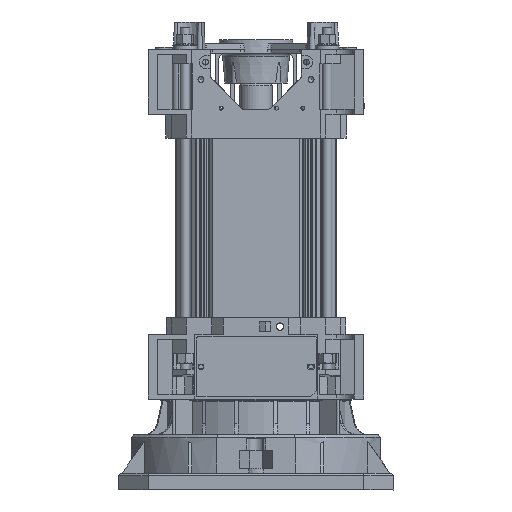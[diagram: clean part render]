
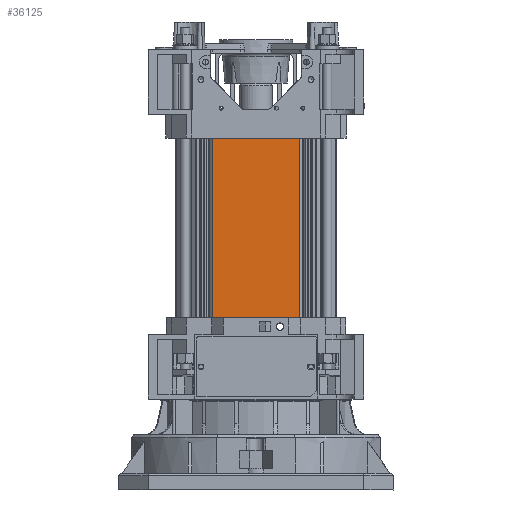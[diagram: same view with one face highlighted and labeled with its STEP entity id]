
A CAD part, left-side view. The second image highlights one B-rep face of the part: STEP entity #36125.
In plain terms, the highlighted planar face has unit normal (-1, 0, 0).
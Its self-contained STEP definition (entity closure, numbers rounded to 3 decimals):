
#4036=LINE('',#63076,#7299);
#4038=LINE('',#63080,#7301);
#4039=LINE('',#63082,#7302);
#4040=LINE('',#63083,#7303);
#7299=VECTOR('',#49946,10.);
#7301=VECTOR('',#49950,10.);
#7302=VECTOR('',#49951,10.);
#7303=VECTOR('',#49952,10.);
#8527=PLANE('',#39788);
#10637=FACE_OUTER_BOUND('',#12807,.T.);
#12807=EDGE_LOOP('',(#33050,#33051,#33052,#33053));
#17760=VERTEX_POINT('',#63073);
#17761=VERTEX_POINT('',#63075);
#17762=VERTEX_POINT('',#63079);
#17763=VERTEX_POINT('',#63081);
#22919=EDGE_CURVE('',#17761,#17760,#4036,.T.);
#22921=EDGE_CURVE('',#17760,#17762,#4038,.T.);
#22922=EDGE_CURVE('',#17763,#17762,#4039,.T.);
#22923=EDGE_CURVE('',#17763,#17761,#4040,.T.);
#33050=ORIENTED_EDGE('',*,*,#22921,.T.);
#33051=ORIENTED_EDGE('',*,*,#22922,.F.);
#33052=ORIENTED_EDGE('',*,*,#22923,.T.);
#33053=ORIENTED_EDGE('',*,*,#22919,.T.);
#36125=ADVANCED_FACE('',(#10637),#8527,.T.);
#39788=AXIS2_PLACEMENT_3D('',#63078,#49948,#49949);
#49946=DIRECTION('',(0.,0.,1.));
#49948=DIRECTION('center_axis',(-1.,0.,0.));
#49949=DIRECTION('ref_axis',(0.,0.,1.));
#49950=DIRECTION('',(0.,1.,0.));
#49951=DIRECTION('',(0.,0.,1.));
#49952=DIRECTION('',(0.,-1.,0.));
#63073=CARTESIAN_POINT('',(6476.011,-1945.032,160.));
#63075=CARTESIAN_POINT('',(6476.011,-1945.032,0.));
#63076=CARTESIAN_POINT('',(6476.011,-1945.032,0.));
#63078=CARTESIAN_POINT('Origin',(6476.011,-1945.032,0.));
#63079=CARTESIAN_POINT('',(6476.011,-1872.567,160.));
#63080=CARTESIAN_POINT('',(6476.011,-1872.567,160.));
#63081=CARTESIAN_POINT('',(6476.011,-1872.567,0.));
#63082=CARTESIAN_POINT('',(6476.011,-1872.567,0.));
#63083=CARTESIAN_POINT('',(6476.011,-1872.567,0.));
